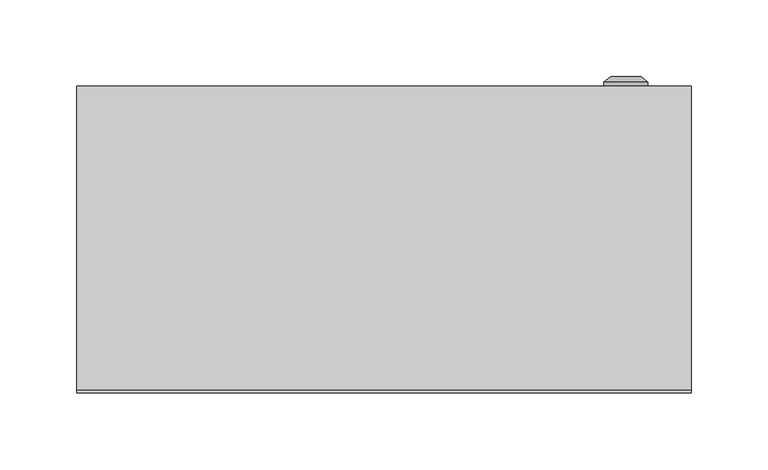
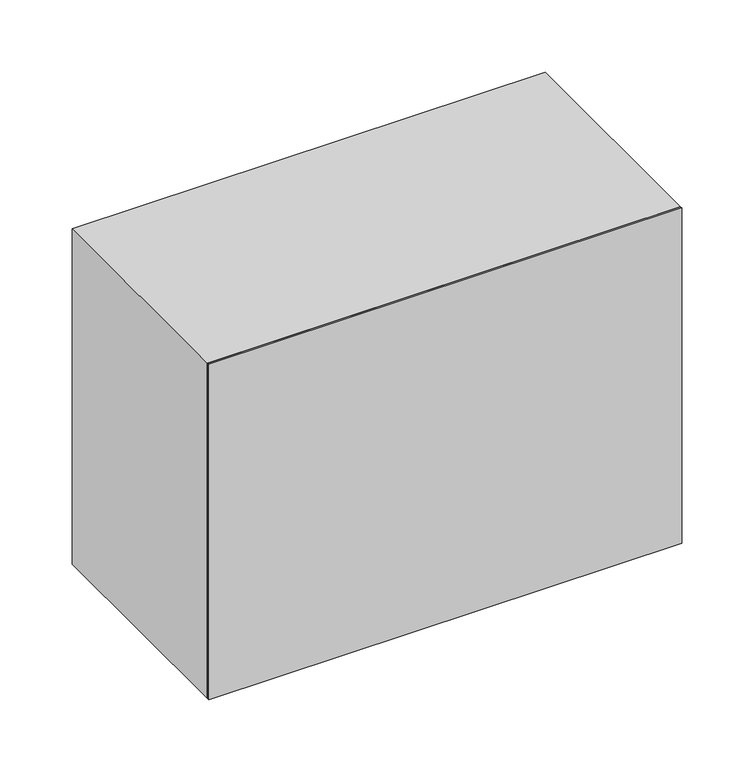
"""IFC4 building model written with IfcOpenShell, lengths in millimetres: proxy geometry, ЩМП : ЩМП-3.4.2-0_300х400х200."""

from ifc_helpers import new_model, si_unit, frame, origin, origin_with_axes, place, context, project, spatial, polyline, circle_curve, outline, extrude, source, transform, mapped, element, save
from ifc_brep_helpers import plane_surface, cylinder_surface, revolved_surface, advanced_brep


def electrical_equipment_063c99c6(model_context):
    return source(origin(), model_context, "Body", "SolidModel", [
        advanced_brep(
        [(143.169873, 200.0, 152.5), (171.830127, 200.0, 152.5), (157.5, 200.0, 152.5), (143.169873, 202.366592, 152.5), (171.830127, 202.366592, 152.5), (147.5, 206.0, 152.5), (167.5, 206.0, 152.5), (155.6080471, 206.0, 152.5), (159.3919529, 206.0, 152.5), (155.6080471, 204.9822294, 152.5), (159.3919529, 204.9822294, 152.5), (157.5, 204.9822294, 152.5)],
        [
            (0, 1, circle_curve(frame((157.5, 200.0, 152.5), z_axis=(0.0, -1.0, 0.0), x_axis=(1.0, 0.0, 0.0)), 14.330127)),
            (1, 2),
            (2, 0),
            (1, 0, circle_curve(frame((157.5, 200.0, 152.5), z_axis=(0.0, -1.0, 0.0), x_axis=(1.0, 0.0, 0.0)), 14.330127)),
            (3, 4, circle_curve(frame((157.5, 202.366592, 152.5), z_axis=(0.0, -1.0, 0.0), x_axis=(1.0, 0.0, 0.0)), 14.330127)),
            (4, 1),
            (0, 3),
            (4, 3, circle_curve(frame((157.5, 202.366592, 152.5), z_axis=(0.0, -1.0, 0.0), x_axis=(1.0, 0.0, 0.0)), 14.330127)),
            (5, 6, circle_curve(frame((157.5, 206.0, 152.5), z_axis=(0.0, -1.0, 0.0), x_axis=(1.0, 0.0, 0.0)), 10.0)),
            (6, 4),
            (3, 5),
            (6, 5, circle_curve(frame((157.5, 206.0, 152.5), z_axis=(0.0, -1.0, 0.0), x_axis=(1.0, 0.0, 0.0)), 10.0)),
            (7, 8, circle_curve(frame((157.5, 206.0, 152.5), z_axis=(0.0, -1.0, 0.0), x_axis=(1.0, 0.0, 0.0)), 1.8919529)),
            (8, 6),
            (5, 7),
            (8, 7, circle_curve(frame((157.5, 206.0, 152.5), z_axis=(0.0, -1.0, 0.0), x_axis=(1.0, 0.0, 0.0)), 1.8919529)),
            (9, 10, circle_curve(frame((157.5, 204.9822294, 152.5), z_axis=(0.0, -1.0, 0.0), x_axis=(1.0, 0.0, 0.0)), 1.8919529)),
            (10, 8),
            (7, 9),
            (10, 9, circle_curve(frame((157.5, 204.9822294, 152.5), z_axis=(0.0, -1.0, 0.0), x_axis=(1.0, 0.0, 0.0)), 1.8919529)),
            (11, 10),
            (9, 11),
        ],
        [
            plane_surface(frame((157.5, 200.0, 152.5), z_axis=(0.0, -1.0, 0.0), x_axis=(1.0, 0.0, 0.0))),
            cylinder_surface(frame((157.5, 213.1348851, 152.5), z_axis=(0.0, 1.0, 0.0), x_axis=(1.0, 0.0, 0.0)), 14.330127),
            revolved_surface(polyline([(171.830127, 202.366592, 152.5), (167.5, 206.0, 152.5)]), (157.5, 213.1348851, 152.5), (0.0, 1.0, 0.0)),
            plane_surface(frame((157.5, 206.0, 152.5), z_axis=(0.0, 1.0, 0.0), x_axis=(1.0, 0.0, 0.0))),
            revolved_surface(polyline([(159.3919529, 206.0, 152.5), (159.3919529, 204.9822294, 152.5)]), (157.5, 213.1348851, 152.5), (0.0, 1.0, 0.0)),
            plane_surface(frame((157.5, 204.9822294, 152.5), z_axis=(0.0, 1.0, 0.0), x_axis=(1.0, 0.0, 0.0))),
        ],
        [
            (0, [[1, 2, 3]]),
            (0, [[4, -3, -2]]),
            (1, [[5, 6, -1, 7]]),
            (1, [[8, -7, -4, -6]]),
            (2, [[9, 10, -5, 11]]),
            (2, [[12, -11, -8, -10]]),
            (3, [[13, 14, -9, 15]]),
            (3, [[16, -15, -12, -14]]),
            (4, [[17, 18, -13, 19]]),
            (4, [[20, -19, -16, -18]]),
            (5, [[21, -17, 22]]),
            (5, [[-22, -20, -21]]),
        ],
    ),
        extrude(outline(polyline([(182.75, 175.0), (-182.75, 175.0), (-182.75, 200.0), (182.75, 200.0), (182.75, 175.0)])), frame((0.0, 0.0, 19.75), z_axis=(0.0, 0.0, 1.0), x_axis=(1.0, 0.0, 0.0)), (0.0, 0.0, 1.0), 260.5),
        extrude(outline(polyline([(300.0, -200.0033905), (0.0, -200.0033905), (0.0, 199.9966095), (300.0, 199.9966095), (300.0, -200.0033905)]), holes=[polyline([(265.0, -167.5033905), (265.0, 167.4966095), (40.0, 167.4966095), (40.0, -167.5033905), (265.0, -167.5033905)])]), frame((0.0, 2.0, 0.0), z_axis=(0.0, 1.0, 0.0), x_axis=(0.0, 0.0, 1.0)), (0.0, 0.0, 1.0), 198.0),
        extrude(outline(polyline([(200.0, 0.0), (-200.0, 0.0), (-200.0, 2.0), (200.0, 2.0), (200.0, 0.0)])), origin_with_axes(), (0.0, 0.0, 1.0), 300.0),
    ])


if __name__ == "__main__":
    model = new_model("IFC4")
    model_context = context("Model", 3, world=origin())
    ifc_project = project(units=[si_unit("LENGTHUNIT", "METRE", prefix="MILLI")], contexts=[model_context])
    site = spatial("IfcSite", under=ifc_project)
    building = spatial("IfcBuilding", under=site)
    placement = place(None, origin())
    electrical_equipment_shape = electrical_equipment_063c99c6(model_context)
    element("IfcBuildingElementProxy", 1, Name="ЩМП : ЩМП-3.4.2-0_300х400х200", ObjectType="ЩМП : ЩМП-3.4.2-0_300х400х200", at=placement, inside=building, context=model_context, shape_type="MappedRepresentation", body=[
        mapped(electrical_equipment_shape, transform((0.0, 0.0, 0.0), x_axis=(1.0, 0.0, 0.0), y_axis=(0.0, 1.0, 0.0), z_axis=(0.0, 0.0, 1.0))),
    ])
    save(model, "model.ifc")
